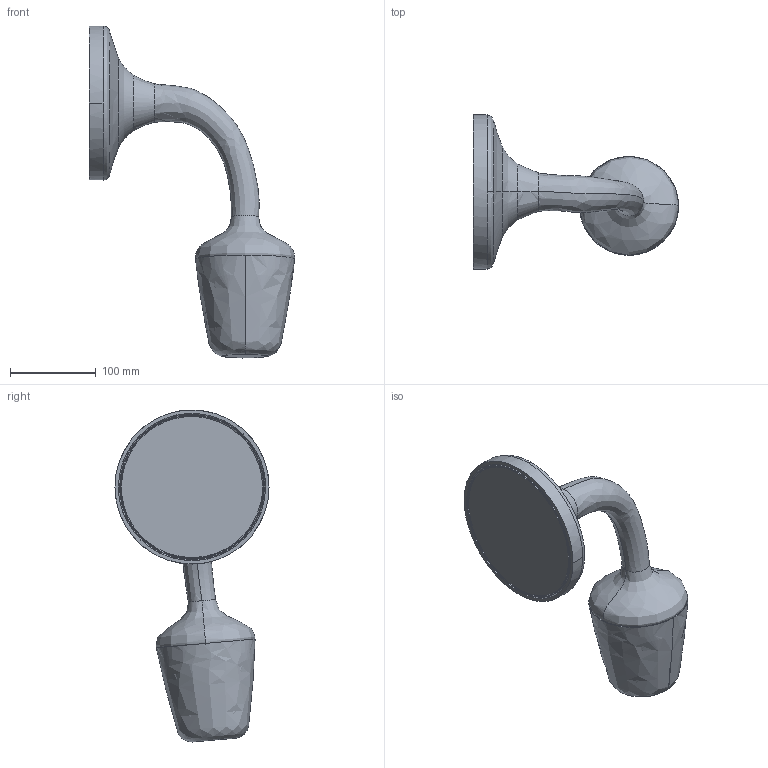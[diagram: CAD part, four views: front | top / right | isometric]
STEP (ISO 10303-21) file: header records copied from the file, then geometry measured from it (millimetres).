
FILE_DESCRIPTION(/* description */ (''),/* implementation_level */ '2;1');
FILE_NAME(/* name */ 'Mushroom Wall CE UL',/* time_stamp */ '2019-02-05T09:03:03+01:00',/* author */ (''),/* organization */ (''),/* preprocessor_version */ 'ST-DEVELOPER v15',/* originating_system */ '',/* authorisation */ '');
FILE_SCHEMA (('AUTOMOTIVE_DESIGN'));
Length unit declared in the file: millimetre
Products named in the file (1): Document
Bounding box: 239.99 x 180 x 388.05 mm (x, y, z)
Volume: 506644.8 mm3; surface area: 390886.3 mm2
Topology: 5 solids, 5 shells, 76 faces, 184 edges, 120 vertices
Faces by surface type: bspline 64, plane 12
Entity records: 7232 total; most frequent: CARTESIAN_POINT 6196, ORIENTED_EDGE 368, EDGE_CURVE 184, VERTEX_POINT 120, EDGE_LOOP 80, ADVANCED_FACE 76, FACE_OUTER_BOUND 76, B_SPLINE_CURVE_WITH_KNOTS 18
